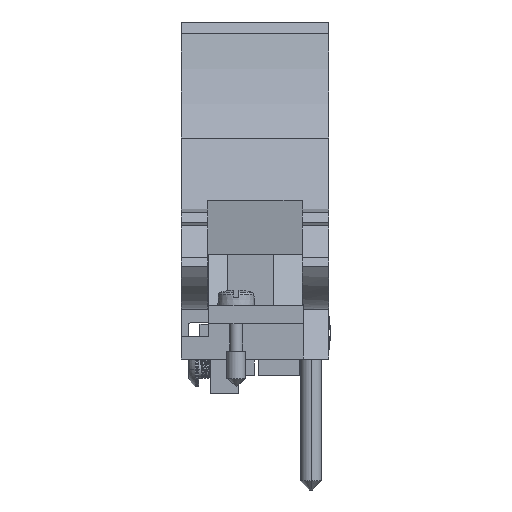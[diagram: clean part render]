
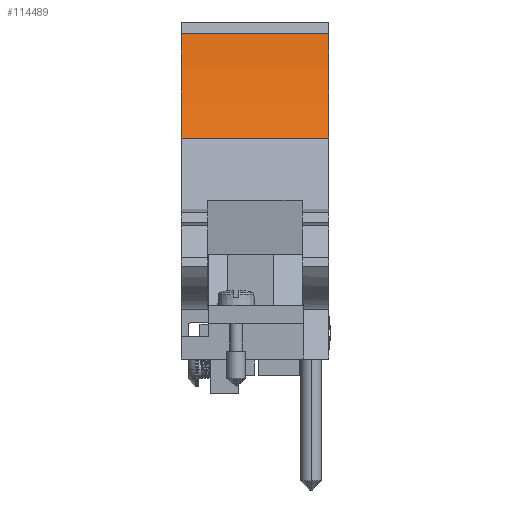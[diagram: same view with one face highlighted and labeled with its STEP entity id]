
A CAD part, front view. The second image highlights one B-rep face of the part: STEP entity #114489.
In plain terms, the highlighted cylindrical face has radius 51.46 mm (diameter 102.919 mm), a partial arc.
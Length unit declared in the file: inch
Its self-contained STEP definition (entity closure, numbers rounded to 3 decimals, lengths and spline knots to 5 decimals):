
#96111=CARTESIAN_POINT('',(-0.155,-5.95043,6.05078));
#96112=DIRECTION('',(1.,0.,0.));
#96113=DIRECTION('',(0.,0.9,-0.435));
#96114=AXIS2_PLACEMENT_3D('',#96111,#96112,#96113);
#97409=CARTESIAN_POINT('',(0.633,-5.95043,6.05078));
#97410=DIRECTION('',(1.,0.,0.));
#97411=DIRECTION('',(0.,0.9,-0.435));
#97412=AXIS2_PLACEMENT_3D('',#97409,#97410,#97411);
#97680=DIRECTION('',(1.,0.,0.));
#97681=VECTOR('',#97680,0.788);
#97682=CARTESIAN_POINT('',(-0.155,-3.95043,5.72745));
#97683=LINE('',#97682,#97681);
#97688=DIRECTION('',(1.,0.,0.));
#97689=VECTOR('',#97688,0.788);
#97690=CARTESIAN_POINT('',(-0.155,-4.12619,5.16948));
#97691=LINE('',#97690,#97689);
#109226=CARTESIAN_POINT('',(-0.155,-4.12619,5.16948));
#109227=CARTESIAN_POINT('',(-0.155,-3.95043,5.72745));
#109228=VERTEX_POINT('',#109226);
#109229=VERTEX_POINT('',#109227);
#109230=CARTESIAN_POINT('',(0.633,-4.12619,5.16948));
#109231=CARTESIAN_POINT('',(0.633,-3.95043,5.72745));
#109232=VERTEX_POINT('',#109230);
#109233=VERTEX_POINT('',#109231);
#114477=CARTESIAN_POINT('',(0.633,-5.95043,6.05078));
#114478=DIRECTION('',(1.,0.,0.));
#114479=DIRECTION('',(0.,1.,0.));
#114480=AXIS2_PLACEMENT_3D('',#114477,#114478,#114479);
#114481=CYLINDRICAL_SURFACE('',#114480,2.02597);
#114482=ORIENTED_EDGE('',*,*,#112217,.T.);
#114483=ORIENTED_EDGE('',*,*,#114469,.T.);
#114484=ORIENTED_EDGE('',*,*,#114074,.F.);
#114486=ORIENTED_EDGE('',*,*,#114485,.F.);
#114487=EDGE_LOOP('',(#114482,#114483,#114484,#114486));
#114488=FACE_OUTER_BOUND('',#114487,.F.);
#114489=ADVANCED_FACE('',(#114488),#114481,.F.);
#96115=CIRCLE('',#96114,2.02597);
#97413=CIRCLE('',#97412,2.02597);
#112217=EDGE_CURVE('',#109228,#109229,#96115,.T.);
#114074=EDGE_CURVE('',#109232,#109233,#97413,.T.);
#114469=EDGE_CURVE('',#109229,#109233,#97683,.T.);
#114485=EDGE_CURVE('',#109228,#109232,#97691,.T.);
